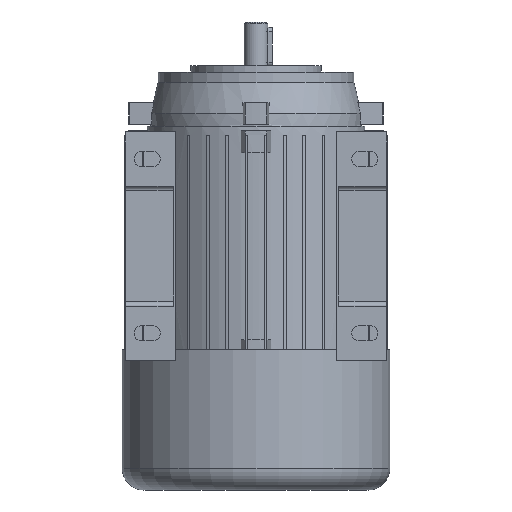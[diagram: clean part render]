
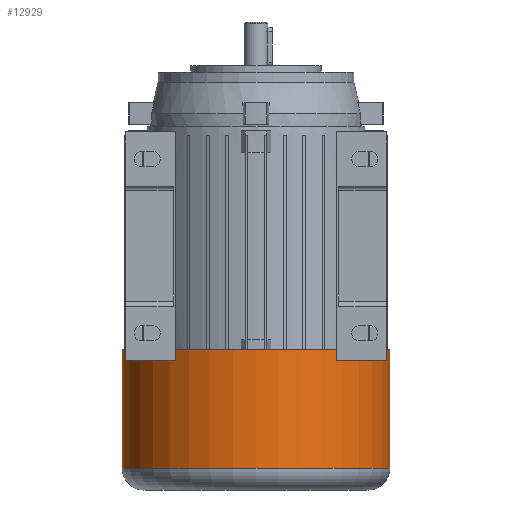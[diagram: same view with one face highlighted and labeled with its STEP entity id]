
A CAD part, front view. The second image highlights one B-rep face of the part: STEP entity #12929.
In plain terms, the highlighted cylindrical face has radius 61.5 mm (diameter 123 mm), a partial arc.
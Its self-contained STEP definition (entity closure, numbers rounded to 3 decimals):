
#817 = DIRECTION ( 'NONE',  ( 0., 0., 1. ) ) ;
#1068 = DIRECTION ( 'NONE',  ( 0., 0., 1. ) ) ;
#1202 = VERTEX_POINT ( 'NONE', #5467 ) ;
#1379 = CIRCLE ( 'NONE', #10089, 61.5 ) ;
#1433 = DIRECTION ( 'NONE',  ( 0., 0., 1. ) ) ;
#2374 = VERTEX_POINT ( 'NONE', #12092 ) ;
#2862 = CARTESIAN_POINT ( 'NONE',  ( 0., 0., -102. ) ) ;
#2975 = VECTOR ( 'NONE', #1068, 1000. ) ;
#3070 = FACE_OUTER_BOUND ( 'NONE', #5985, .T. ) ;
#3331 = ORIENTED_EDGE ( 'NONE', *, *, #6105, .F. ) ;
#3727 = ORIENTED_EDGE ( 'NONE', *, *, #15296, .T. ) ;
#3845 = EDGE_CURVE ( 'NONE', #11837, #1202, #16798, .T. ) ;
#4299 = CARTESIAN_POINT ( 'NONE',  ( 0., 0., -47.5 ) ) ;
#4367 = AXIS2_PLACEMENT_3D ( 'NONE', #2862, #6847, #8305 ) ;
#4434 = CIRCLE ( 'NONE', #4367, 61.5 ) ;
#5467 = CARTESIAN_POINT ( 'NONE',  ( 61.5, 0., -47.5 ) ) ;
#5679 = DIRECTION ( 'NONE',  ( 0., 0., 1. ) ) ;
#5913 = ORIENTED_EDGE ( 'NONE', *, *, #3845, .T. ) ;
#5985 = EDGE_LOOP ( 'NONE', ( #3331, #3727, #5913, #6901 ) ) ;
#6105 = EDGE_CURVE ( 'NONE', #13510, #2374, #12616, .T. ) ;
#6847 = DIRECTION ( 'NONE',  ( 0., 0., 1. ) ) ;
#6850 = CARTESIAN_POINT ( 'NONE',  ( 61.5, 0., -102. ) ) ;
#6901 = ORIENTED_EDGE ( 'NONE', *, *, #14377, .F. ) ;
#7028 = CARTESIAN_POINT ( 'NONE',  ( -61.5, 0., -102. ) ) ;
#8305 = DIRECTION ( 'NONE',  ( 1., 0., 0. ) ) ;
#8728 = CARTESIAN_POINT ( 'NONE',  ( 61.5, 0., 22.524 ) ) ;
#8862 = AXIS2_PLACEMENT_3D ( 'NONE', #14658, #1433, #12054 ) ;
#10089 = AXIS2_PLACEMENT_3D ( 'NONE', #4299, #5679, #10480 ) ;
#10396 = CARTESIAN_POINT ( 'NONE',  ( -61.5, 0., 22.524 ) ) ;
#10480 = DIRECTION ( 'NONE',  ( 1., 0., 0. ) ) ;
#11837 = VERTEX_POINT ( 'NONE', #6850 ) ;
#12054 = DIRECTION ( 'NONE',  ( 1., 0., 0. ) ) ;
#12092 = CARTESIAN_POINT ( 'NONE',  ( -61.5, 0., -47.5 ) ) ;
#12616 = LINE ( 'NONE', #10396, #2975 ) ;
#12929 = ADVANCED_FACE ( 'NONE', ( #3070 ), #16597, .T. ) ;
#13510 = VERTEX_POINT ( 'NONE', #7028 ) ;
#14338 = VECTOR ( 'NONE', #817, 1000. ) ;
#14377 = EDGE_CURVE ( 'NONE', #2374, #1202, #1379, .T. ) ;
#14658 = CARTESIAN_POINT ( 'NONE',  ( 0., 0., 22.524 ) ) ;
#15296 = EDGE_CURVE ( 'NONE', #13510, #11837, #4434, .T. ) ;
#16597 = CYLINDRICAL_SURFACE ( 'NONE', #8862, 61.5 ) ;
#16798 = LINE ( 'NONE', #8728, #14338 ) ;
